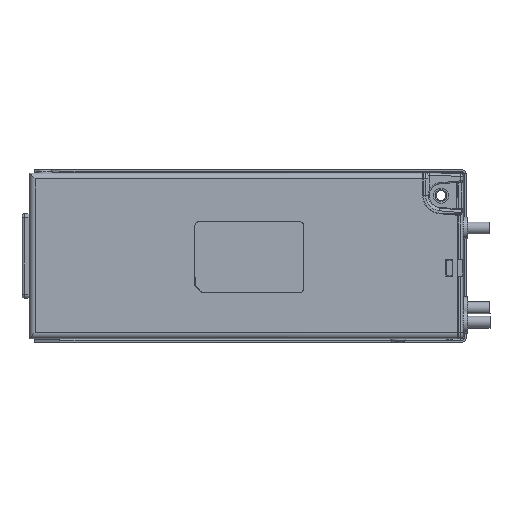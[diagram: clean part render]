
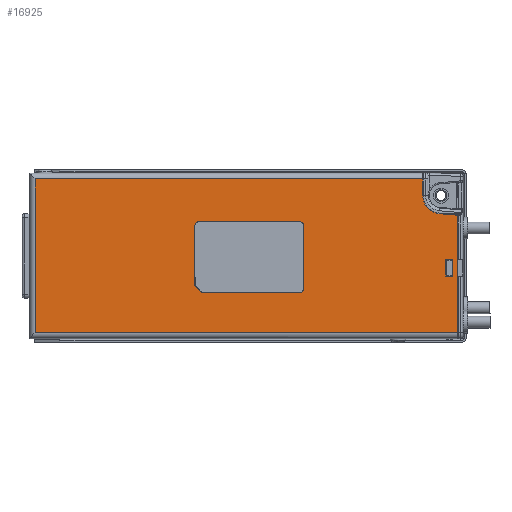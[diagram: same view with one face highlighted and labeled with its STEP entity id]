
A CAD part, top view. The second image highlights one B-rep face of the part: STEP entity #16925.
In plain terms, the highlighted planar face has unit normal (0, 0, 1).
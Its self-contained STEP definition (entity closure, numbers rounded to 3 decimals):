
#603=FACE_BOUND('',#5038,.T.);
#604=FACE_BOUND('',#5039,.T.);
#697=LINE('',#24335,#2261);
#701=LINE('',#24347,#2265);
#705=LINE('',#24358,#2269);
#709=LINE('',#24366,#2273);
#712=LINE('',#24370,#2276);
#713=LINE('',#24375,#2277);
#714=LINE('',#24377,#2278);
#715=LINE('',#24379,#2279);
#716=LINE('',#24381,#2280);
#717=LINE('',#24383,#2281);
#718=LINE('',#24387,#2282);
#719=LINE('',#24388,#2283);
#720=LINE('',#24391,#2284);
#721=LINE('',#24393,#2285);
#722=LINE('',#24395,#2286);
#723=LINE('',#24396,#2287);
#724=LINE('',#24397,#2288);
#725=LINE('',#24398,#2289);
#2261=VECTOR('',#19533,10.);
#2265=VECTOR('',#19545,10.);
#2269=VECTOR('',#19557,10.);
#2273=VECTOR('',#19563,10.);
#2276=VECTOR('',#19568,10.);
#2277=VECTOR('',#19573,10.);
#2278=VECTOR('',#19574,10.);
#2279=VECTOR('',#19575,10.);
#2280=VECTOR('',#19576,10.);
#2281=VECTOR('',#19577,10.);
#2282=VECTOR('',#19580,10.);
#2283=VECTOR('',#19581,10.);
#2284=VECTOR('',#19582,10.);
#2285=VECTOR('',#19583,10.);
#2286=VECTOR('',#19584,10.);
#2287=VECTOR('',#19585,10.);
#2288=VECTOR('',#19586,10.);
#2289=VECTOR('',#19587,10.);
#4086=FACE_OUTER_BOUND('',#5037,.T.);
#5037=EDGE_LOOP('',(#10596,#10597,#10598,#10599,#10600,#10601,#10602,#10603));
#5038=EDGE_LOOP('',(#10604,#10605,#10606,#10607));
#5039=EDGE_LOOP('',(#10608,#10609,#10610,#10611,#10612,#10613,#10614,#10615,
#10616,#10617));
#6060=CIRCLE('',#17893,2.);
#6062=CIRCLE('',#17897,2.);
#6064=CIRCLE('',#17901,2.);
#6065=CIRCLE('',#17907,7.7);
#6557=VERTEX_POINT('',#24312);
#6561=VERTEX_POINT('',#24319);
#6562=VERTEX_POINT('',#24321);
#6565=VERTEX_POINT('',#24328);
#6566=VERTEX_POINT('',#24330);
#6567=VERTEX_POINT('',#24334);
#6570=VERTEX_POINT('',#24342);
#6571=VERTEX_POINT('',#24346);
#6574=VERTEX_POINT('',#24354);
#6577=VERTEX_POINT('',#24365);
#6578=VERTEX_POINT('',#24373);
#6579=VERTEX_POINT('',#24374);
#6580=VERTEX_POINT('',#24376);
#6581=VERTEX_POINT('',#24378);
#6582=VERTEX_POINT('',#24380);
#6583=VERTEX_POINT('',#24382);
#6584=VERTEX_POINT('',#24384);
#6585=VERTEX_POINT('',#24386);
#6586=VERTEX_POINT('',#24389);
#6587=VERTEX_POINT('',#24390);
#6588=VERTEX_POINT('',#24392);
#6589=VERTEX_POINT('',#24394);
#8095=EDGE_CURVE('',#6566,#6565,#6060,.T.);
#8097=EDGE_CURVE('',#6567,#6566,#697,.T.);
#8101=EDGE_CURVE('',#6570,#6567,#6062,.T.);
#8103=EDGE_CURVE('',#6571,#6570,#701,.T.);
#8107=EDGE_CURVE('',#6574,#6571,#6064,.T.);
#8109=EDGE_CURVE('',#6557,#6574,#705,.T.);
#8113=EDGE_CURVE('',#6577,#6561,#709,.T.);
#8116=EDGE_CURVE('',#6565,#6577,#712,.T.);
#8117=EDGE_CURVE('',#6578,#6579,#713,.T.);
#8118=EDGE_CURVE('',#6579,#6580,#714,.T.);
#8119=EDGE_CURVE('',#6581,#6580,#715,.T.);
#8120=EDGE_CURVE('',#6582,#6581,#716,.T.);
#8121=EDGE_CURVE('',#6582,#6583,#717,.T.);
#8122=EDGE_CURVE('',#6583,#6584,#6065,.T.);
#8123=EDGE_CURVE('',#6584,#6585,#718,.T.);
#8124=EDGE_CURVE('',#6585,#6578,#719,.T.);
#8125=EDGE_CURVE('',#6586,#6587,#720,.T.);
#8126=EDGE_CURVE('',#6587,#6588,#721,.T.);
#8127=EDGE_CURVE('',#6588,#6589,#722,.T.);
#8128=EDGE_CURVE('',#6589,#6586,#723,.T.);
#8129=EDGE_CURVE('',#6561,#6562,#724,.T.);
#8130=EDGE_CURVE('',#6562,#6557,#725,.T.);
#10596=ORIENTED_EDGE('',*,*,#8117,.T.);
#10597=ORIENTED_EDGE('',*,*,#8118,.T.);
#10598=ORIENTED_EDGE('',*,*,#8119,.F.);
#10599=ORIENTED_EDGE('',*,*,#8120,.F.);
#10600=ORIENTED_EDGE('',*,*,#8121,.T.);
#10601=ORIENTED_EDGE('',*,*,#8122,.T.);
#10602=ORIENTED_EDGE('',*,*,#8123,.T.);
#10603=ORIENTED_EDGE('',*,*,#8124,.T.);
#10604=ORIENTED_EDGE('',*,*,#8125,.T.);
#10605=ORIENTED_EDGE('',*,*,#8126,.T.);
#10606=ORIENTED_EDGE('',*,*,#8127,.T.);
#10607=ORIENTED_EDGE('',*,*,#8128,.T.);
#10608=ORIENTED_EDGE('',*,*,#8109,.T.);
#10609=ORIENTED_EDGE('',*,*,#8107,.T.);
#10610=ORIENTED_EDGE('',*,*,#8103,.T.);
#10611=ORIENTED_EDGE('',*,*,#8101,.T.);
#10612=ORIENTED_EDGE('',*,*,#8097,.T.);
#10613=ORIENTED_EDGE('',*,*,#8095,.T.);
#10614=ORIENTED_EDGE('',*,*,#8116,.T.);
#10615=ORIENTED_EDGE('',*,*,#8113,.T.);
#10616=ORIENTED_EDGE('',*,*,#8129,.T.);
#10617=ORIENTED_EDGE('',*,*,#8130,.T.);
#15467=PLANE('',#17906);
#16925=ADVANCED_FACE('',(#4086,#603,#604),#15467,.T.);
#17893=AXIS2_PLACEMENT_3D('',#24331,#19528,#19529);
#17897=AXIS2_PLACEMENT_3D('',#24343,#19540,#19541);
#17901=AXIS2_PLACEMENT_3D('',#24355,#19552,#19553);
#17906=AXIS2_PLACEMENT_3D('',#24372,#19571,#19572);
#17907=AXIS2_PLACEMENT_3D('',#24385,#19578,#19579);
#19528=DIRECTION('center_axis',(0.,0.,
-1.));
#19529=DIRECTION('ref_axis',(0.707,-0.707,0.));
#19533=DIRECTION('',(0.,-1.,0.));
#19540=DIRECTION('center_axis',(0.,0.,
-1.));
#19541=DIRECTION('ref_axis',(0.707,0.707,0.));
#19545=DIRECTION('',(1.,0.,0.));
#19552=DIRECTION('center_axis',(0.,0.,
-1.));
#19553=DIRECTION('ref_axis',(-0.707,0.707,0.));
#19557=DIRECTION('',(0.,1.,0.));
#19563=DIRECTION('',(-0.707,0.707,0.));
#19568=DIRECTION('',(-1.,0.,0.));
#19571=DIRECTION('center_axis',(0.,0.,
1.));
#19572=DIRECTION('ref_axis',(0.,-1.,0.));
#19573=DIRECTION('',(0.,-1.,0.));
#19574=DIRECTION('',(1.,0.,0.));
#19575=DIRECTION('',(0.,-1.,0.));
#19576=DIRECTION('',(0.676,-0.737,0.));
#19577=DIRECTION('',(-0.996,0.087,0.));
#19578=DIRECTION('center_axis',(0.,0.,
-1.));
#19579=DIRECTION('ref_axis',(-1.,0.,0.));
#19580=DIRECTION('',(0.,1.,0.));
#19581=DIRECTION('',(-1.,0.,0.));
#19582=DIRECTION('',(-1.,0.,0.));
#19583=DIRECTION('',(0.,1.,0.));
#19584=DIRECTION('',(1.,0.,0.));
#19585=DIRECTION('',(0.,-1.,0.));
#19586=DIRECTION('',(-0.707,0.707,0.));
#19587=DIRECTION('',(0.,1.,0.));
#24312=CARTESIAN_POINT('',(-20.,-9.025,34.9));
#24319=CARTESIAN_POINT('',(-17.525,-15.,34.9));
#24321=CARTESIAN_POINT('',(-20.,-12.525,34.9));
#24328=CARTESIAN_POINT('',(24.,-15.525,34.9));
#24330=CARTESIAN_POINT('',(26.,-13.525,34.9));
#24331=CARTESIAN_POINT('Origin',(24.,-13.525,34.9));
#24334=CARTESIAN_POINT('',(26.,12.475,34.9));
#24335=CARTESIAN_POINT('',(26.,7.237,34.9));
#24342=CARTESIAN_POINT('',(24.,14.475,34.9));
#24343=CARTESIAN_POINT('Origin',(24.,12.475,34.9));
#24346=CARTESIAN_POINT('',(-18.,14.475,34.9));
#24347=CARTESIAN_POINT('',(-9.75,14.475,34.9));
#24354=CARTESIAN_POINT('',(-20.,12.475,34.9));
#24355=CARTESIAN_POINT('Origin',(-18.,12.475,34.9));
#24358=CARTESIAN_POINT('',(-20.,-7.763,34.9));
#24365=CARTESIAN_POINT('',(-17.,-15.525,34.9));
#24366=CARTESIAN_POINT('',(-17.256,-15.269,34.9));
#24370=CARTESIAN_POINT('',(13.25,-15.525,34.9));
#24372=CARTESIAN_POINT('Origin',(0.5,0.,
34.9));
#24373=CARTESIAN_POINT('',(-87.5,32.5,34.9));
#24374=CARTESIAN_POINT('',(-87.5,-32.5,34.9));
#24375=CARTESIAN_POINT('',(-87.5,-16.25,34.9));
#24376=CARTESIAN_POINT('',(91.,-32.5,34.9));
#24377=CARTESIAN_POINT('',(-44.75,-32.5,34.9));
#24378=CARTESIAN_POINT('',(91.,16.658,34.9));
#24379=CARTESIAN_POINT('',(91.,35.,34.9));
#24380=CARTESIAN_POINT('',(90.502,17.202,34.9));
#24381=CARTESIAN_POINT('',(74.371,34.805,34.9));
#24382=CARTESIAN_POINT('',(83.329,17.829,34.9));
#24383=CARTESIAN_POINT('',(46.839,21.022,34.9));
#24384=CARTESIAN_POINT('',(76.3,25.5,34.9));
#24385=CARTESIAN_POINT('Origin',(84.,25.5,34.9));
#24386=CARTESIAN_POINT('',(76.3,32.5,34.9));
#24387=CARTESIAN_POINT('',(76.3,12.75,34.9));
#24388=CARTESIAN_POINT('',(45.75,32.5,34.9));
#24389=CARTESIAN_POINT('',(89.,-8.5,34.9));
#24390=CARTESIAN_POINT('',(86.,-8.5,34.9));
#24391=CARTESIAN_POINT('',(44.75,-8.5,34.9));
#24392=CARTESIAN_POINT('',(86.,-1.5,34.9));
#24393=CARTESIAN_POINT('',(86.,-4.25,34.9));
#24394=CARTESIAN_POINT('',(89.,-1.5,34.9));
#24395=CARTESIAN_POINT('',(43.25,-1.5,34.9));
#24396=CARTESIAN_POINT('',(89.,-0.75,34.9));
#24397=CARTESIAN_POINT('',(-16.769,-15.756,34.9));
#24398=CARTESIAN_POINT('',(-20.,-6.263,34.9));
